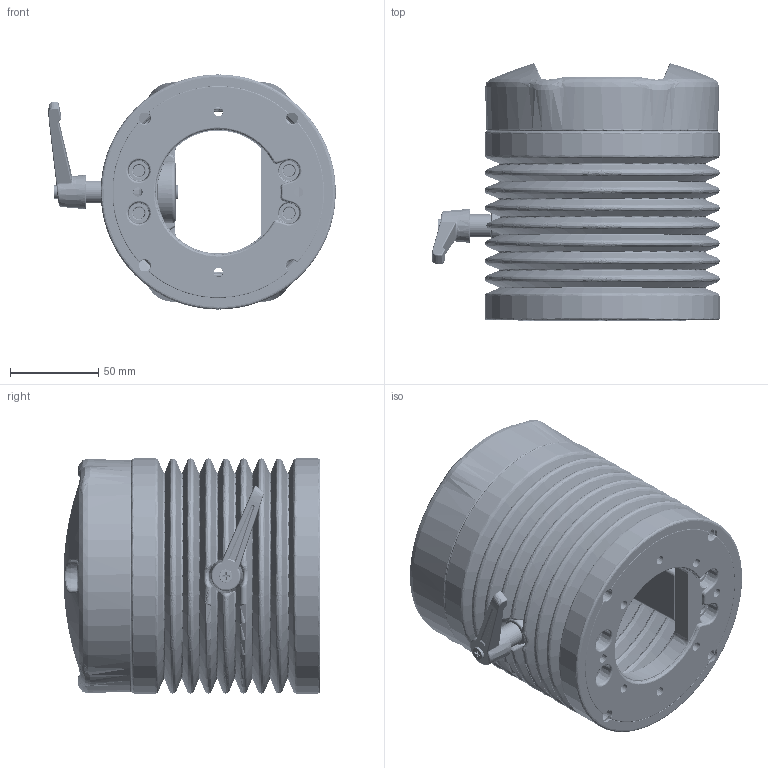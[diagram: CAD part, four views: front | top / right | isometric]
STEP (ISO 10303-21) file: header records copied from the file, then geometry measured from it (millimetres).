
FILE_DESCRIPTION (( 'STEP AP203' ), '1' );
FILE_NAME ('ETR120410.STEP', '2017-06-22T12:26:07', ( '' ), ( '' ), 'SwSTEP 2.0', 'SolidWorks 2017', '' );
FILE_SCHEMA (( 'CONFIG_CONTROL_DESIGN' ));
Length unit declared in the file: millimetre
Products named in the file (1): ETR120410
Bounding box: 162.6 x 145.37 x 133 mm (x, y, z)
Volume: 581723.9 mm3; surface area: 328708.9 mm2
Topology: 11 solids, 11 shells, 4278 faces, 9892 edges, 5655 vertices
Faces by surface type: bspline 2591, cone 922, cylinder 419, plane 316, torus 30
Entity records: 277776 total; most frequent: CARTESIAN_POINT 201398, ORIENTED_EDGE 19630, DIRECTION 11289, EDGE_CURVE 9815, VERTEX_POINT 5655, AXIS2_PLACEMENT_3D 4826, EDGE_LOOP 4458, ADVANCED_FACE 4278
